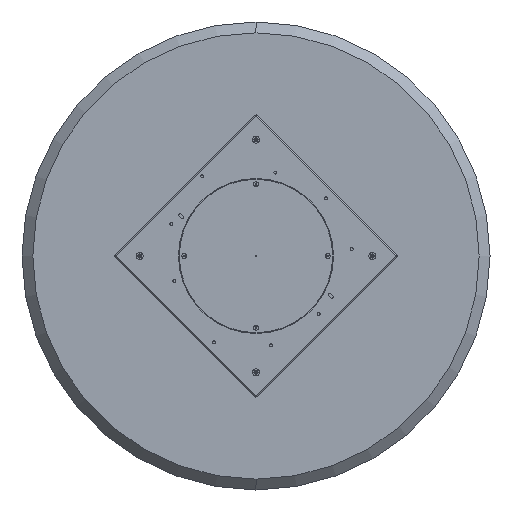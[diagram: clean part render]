
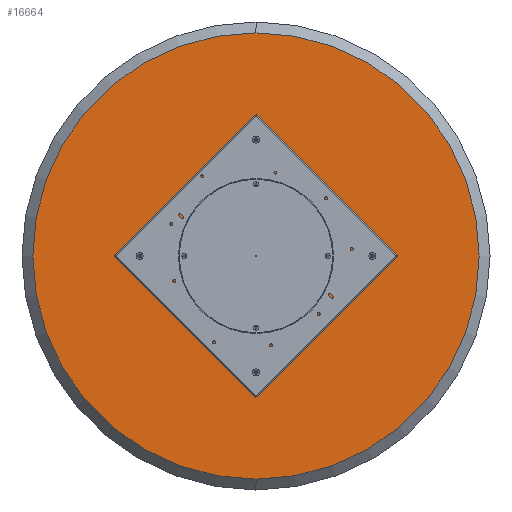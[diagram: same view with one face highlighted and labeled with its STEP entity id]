
A CAD part, front view. The second image highlights one B-rep face of the part: STEP entity #16664.
In plain terms, the highlighted planar face has unit normal (0, -1, 0).
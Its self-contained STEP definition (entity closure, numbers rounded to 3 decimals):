
#28 = DIRECTION ( 'NONE',  ( 0., 0., -1. ) ) ;
#96 = VERTEX_POINT ( 'NONE', #3172 ) ;
#107 = CARTESIAN_POINT ( 'NONE',  ( 0., 0., 400.9 ) ) ;
#219 = VERTEX_POINT ( 'NONE', #17021 ) ;
#426 = CARTESIAN_POINT ( 'NONE',  ( 0., 0., 397.5 ) ) ;
#526 = VERTEX_POINT ( 'NONE', #1653 ) ;
#721 = EDGE_CURVE ( 'NONE', #11986, #96, #10455, .T. ) ;
#803 = AXIS2_PLACEMENT_3D ( 'NONE', #2636, #6720, #28 ) ;
#1412 = DIRECTION ( 'NONE',  ( 0., -1., 0. ) ) ;
#1458 = ORIENTED_EDGE ( 'NONE', *, *, #12511, .F. ) ;
#1653 = CARTESIAN_POINT ( 'NONE',  ( 0., 0., -763. ) ) ;
#1870 = VERTEX_POINT ( 'NONE', #107 ) ;
#1894 = EDGE_CURVE ( 'NONE', #3428, #8568, #5531, .T. ) ;
#2070 = DIRECTION ( 'NONE',  ( 0., -1., 0. ) ) ;
#2453 = CARTESIAN_POINT ( 'NONE',  ( 0., 0., -397.5 ) ) ;
#2636 = CARTESIAN_POINT ( 'NONE',  ( 0., 0., 0. ) ) ;
#2677 = CARTESIAN_POINT ( 'NONE',  ( 0., 0., 0. ) ) ;
#2777 = ORIENTED_EDGE ( 'NONE', *, *, #721, .F. ) ;
#2930 = CARTESIAN_POINT ( 'NONE',  ( 0., 0., 0. ) ) ;
#3070 = EDGE_LOOP ( 'NONE', ( #16868, #3322 ) ) ;
#3172 = CARTESIAN_POINT ( 'NONE',  ( 397.5, 0., -3.4 ) ) ;
#3322 = ORIENTED_EDGE ( 'NONE', *, *, #14764, .F. ) ;
#3428 = VERTEX_POINT ( 'NONE', #12186 ) ;
#3471 = CARTESIAN_POINT ( 'NONE',  ( 397.5, 0., 0. ) ) ;
#4055 = EDGE_CURVE ( 'NONE', #96, #11986, #7780, .T. ) ;
#4313 = EDGE_CURVE ( 'NONE', #9088, #1870, #14408, .T. ) ;
#4398 = PLANE ( 'NONE',  #7276 ) ;
#4758 = DIRECTION ( 'NONE',  ( 0., 0., -1. ) ) ;
#4765 = DIRECTION ( 'NONE',  ( 0., -1., 0. ) ) ;
#5102 = ORIENTED_EDGE ( 'NONE', *, *, #15096, .F. ) ;
#5509 = CIRCLE ( 'NONE', #803, 763. ) ;
#5531 = CIRCLE ( 'NONE', #15217, 3.4 ) ;
#5708 = DIRECTION ( 'NONE',  ( 0., 0., -1. ) ) ;
#5998 = CARTESIAN_POINT ( 'NONE',  ( 397.5, 0., 0. ) ) ;
#6352 = EDGE_LOOP ( 'NONE', ( #5102, #16691 ) ) ;
#6423 = DIRECTION ( 'NONE',  ( 0., 0., -1. ) ) ;
#6582 = AXIS2_PLACEMENT_3D ( 'NONE', #5998, #4765, #11285 ) ;
#6720 = DIRECTION ( 'NONE',  ( 0., -1., 0. ) ) ;
#6944 = DIRECTION ( 'NONE',  ( 0., -1., 0. ) ) ;
#7276 = AXIS2_PLACEMENT_3D ( 'NONE', #2930, #12041, #5708 ) ;
#7283 = CARTESIAN_POINT ( 'NONE',  ( 0., 0., -397.5 ) ) ;
#7780 = CIRCLE ( 'NONE', #16092, 3.4 ) ;
#7847 = ORIENTED_EDGE ( 'NONE', *, *, #13773, .T. ) ;
#8009 = DIRECTION ( 'NONE',  ( 0., 0., -1. ) ) ;
#8036 = AXIS2_PLACEMENT_3D ( 'NONE', #10236, #16992, #13263 ) ;
#8100 = VERTEX_POINT ( 'NONE', #16952 ) ;
#8221 = CIRCLE ( 'NONE', #15410, 3.4 ) ;
#8568 = VERTEX_POINT ( 'NONE', #11712 ) ;
#8767 = DIRECTION ( 'NONE',  ( 0., -1., 0. ) ) ;
#8860 = DIRECTION ( 'NONE',  ( 0., 0., -1. ) ) ;
#8861 = CIRCLE ( 'NONE', #8036, 3.4 ) ;
#8918 = DIRECTION ( 'NONE',  ( 0., -1., 0. ) ) ;
#9088 = VERTEX_POINT ( 'NONE', #14544 ) ;
#9155 = CARTESIAN_POINT ( 'NONE',  ( -397.5, 0., -3.4 ) ) ;
#9343 = FACE_BOUND ( 'NONE', #12370, .T. ) ;
#9433 = FACE_OUTER_BOUND ( 'NONE', #12490, .T. ) ;
#9829 = ORIENTED_EDGE ( 'NONE', *, *, #4055, .F. ) ;
#9891 = EDGE_CURVE ( 'NONE', #219, #16965, #8221, .T. ) ;
#10132 = DIRECTION ( 'NONE',  ( 0., 0., -1. ) ) ;
#10236 = CARTESIAN_POINT ( 'NONE',  ( 0., 0., 397.5 ) ) ;
#10455 = CIRCLE ( 'NONE', #6582, 3.4 ) ;
#10538 = AXIS2_PLACEMENT_3D ( 'NONE', #7283, #2070, #10132 ) ;
#10645 = FACE_BOUND ( 'NONE', #3070, .T. ) ;
#10725 = FACE_BOUND ( 'NONE', #15488, .T. ) ;
#10979 = CARTESIAN_POINT ( 'NONE',  ( 397.5, 0., 3.4 ) ) ;
#11215 = DIRECTION ( 'NONE',  ( 0., -1., 0. ) ) ;
#11285 = DIRECTION ( 'NONE',  ( 0., 0., -1. ) ) ;
#11376 = DIRECTION ( 'NONE',  ( 0., 0., -1. ) ) ;
#11544 = DIRECTION ( 'NONE',  ( 0., -1., 0. ) ) ;
#11712 = CARTESIAN_POINT ( 'NONE',  ( 0., 0., -400.9 ) ) ;
#11883 = ORIENTED_EDGE ( 'NONE', *, *, #14759, .T. ) ;
#11986 = VERTEX_POINT ( 'NONE', #10979 ) ;
#12041 = DIRECTION ( 'NONE',  ( 0., -1., 0. ) ) ;
#12186 = CARTESIAN_POINT ( 'NONE',  ( 0., 0., -394.1 ) ) ;
#12210 = CIRCLE ( 'NONE', #10538, 3.4 ) ;
#12265 = CARTESIAN_POINT ( 'NONE',  ( -397.5, 0., 0. ) ) ;
#12370 = EDGE_LOOP ( 'NONE', ( #1458, #14922 ) ) ;
#12490 = EDGE_LOOP ( 'NONE', ( #7847, #11883 ) ) ;
#12511 = EDGE_CURVE ( 'NONE', #16965, #219, #12989, .T. ) ;
#12989 = CIRCLE ( 'NONE', #15196, 3.4 ) ;
#13263 = DIRECTION ( 'NONE',  ( 0., 0., -1. ) ) ;
#13334 = FACE_BOUND ( 'NONE', #6352, .T. ) ;
#13773 = EDGE_CURVE ( 'NONE', #8100, #526, #5509, .T. ) ;
#14408 = CIRCLE ( 'NONE', #16913, 3.4 ) ;
#14544 = CARTESIAN_POINT ( 'NONE',  ( 0., 0., 394.1 ) ) ;
#14729 = DIRECTION ( 'NONE',  ( 0., 0., -1. ) ) ;
#14759 = EDGE_CURVE ( 'NONE', #526, #8100, #15501, .T. ) ;
#14764 = EDGE_CURVE ( 'NONE', #1870, #9088, #8861, .T. ) ;
#14922 = ORIENTED_EDGE ( 'NONE', *, *, #9891, .F. ) ;
#15096 = EDGE_CURVE ( 'NONE', #8568, #3428, #12210, .T. ) ;
#15196 = AXIS2_PLACEMENT_3D ( 'NONE', #12265, #11215, #8860 ) ;
#15217 = AXIS2_PLACEMENT_3D ( 'NONE', #2453, #1412, #8009 ) ;
#15410 = AXIS2_PLACEMENT_3D ( 'NONE', #16802, #8918, #4758 ) ;
#15488 = EDGE_LOOP ( 'NONE', ( #9829, #2777 ) ) ;
#15501 = CIRCLE ( 'NONE', #16347, 763. ) ;
#16092 = AXIS2_PLACEMENT_3D ( 'NONE', #3471, #8767, #11376 ) ;
#16347 = AXIS2_PLACEMENT_3D ( 'NONE', #2677, #11544, #6423 ) ;
#16664 = ADVANCED_FACE ( 'NONE', ( #9433, #13334, #9343, #10725, #10645 ), #4398, .T. ) ;
#16691 = ORIENTED_EDGE ( 'NONE', *, *, #1894, .F. ) ;
#16802 = CARTESIAN_POINT ( 'NONE',  ( -397.5, 0., 0. ) ) ;
#16868 = ORIENTED_EDGE ( 'NONE', *, *, #4313, .F. ) ;
#16913 = AXIS2_PLACEMENT_3D ( 'NONE', #426, #6944, #14729 ) ;
#16952 = CARTESIAN_POINT ( 'NONE',  ( 0., 0., 763. ) ) ;
#16965 = VERTEX_POINT ( 'NONE', #9155 ) ;
#16992 = DIRECTION ( 'NONE',  ( 0., -1., 0. ) ) ;
#17021 = CARTESIAN_POINT ( 'NONE',  ( -397.5, 0., 3.4 ) ) ;
